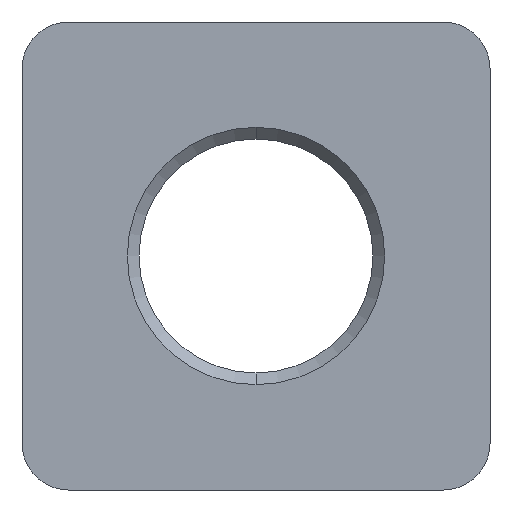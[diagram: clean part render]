
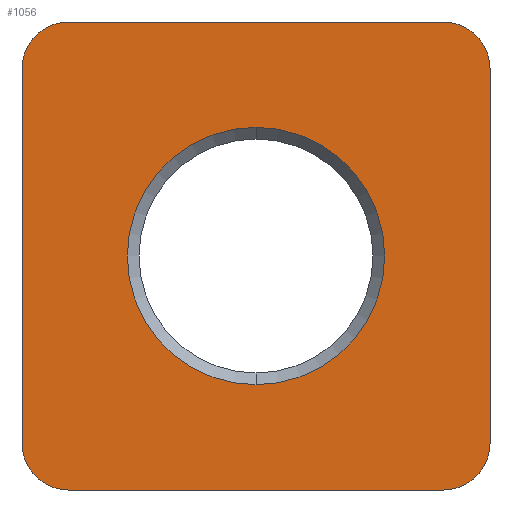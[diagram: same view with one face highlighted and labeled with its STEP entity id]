
A CAD part, front view. The second image highlights one B-rep face of the part: STEP entity #1056.
In plain terms, the highlighted planar face has unit normal (0, -1, 0).
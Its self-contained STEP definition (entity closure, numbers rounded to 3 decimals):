
#45 = EDGE_CURVE ( 'NONE', #1038, #50, #368, .T. ) ;
#50 = VERTEX_POINT ( 'NONE', #359 ) ;
#61 = EDGE_CURVE ( 'NONE', #50, #66, #402, .T. ) ;
#66 = VERTEX_POINT ( 'NONE', #392 ) ;
#69 = VERTEX_POINT ( 'NONE', #386 ) ;
#83 = EDGE_CURVE ( 'NONE', #1103, #1038, #417, .T. ) ;
#86 = ORIENTED_EDGE ( 'NONE', *, *, #83, .F. ) ;
#87 = ORIENTED_EDGE ( 'NONE', *, *, #1086, .F. ) ;
#89 = ORIENTED_EDGE ( 'NONE', *, *, #45, .F. ) ;
#90 = ORIENTED_EDGE ( 'NONE', *, *, #61, .F. ) ;
#91 = ORIENTED_EDGE ( 'NONE', *, *, #1047, .F. ) ;
#92 = ORIENTED_EDGE ( 'NONE', *, *, #1154, .F. ) ;
#103 = EDGE_LOOP ( 'NONE', ( #1057, #1054 ) ) ;
#140 = VERTEX_POINT ( 'NONE', #513 ) ;
#142 = EDGE_CURVE ( 'NONE', #140, #145, #511, .T. ) ;
#145 = VERTEX_POINT ( 'NONE', #568 ) ;
#359 = CARTESIAN_POINT ( 'NONE',  ( 16., 0., 20. ) ) ;
#365 = DIRECTION ( 'NONE',  ( 1., 0., 0. ) ) ;
#366 = VECTOR ( 'NONE', #365, 1000. ) ;
#367 = CARTESIAN_POINT ( 'NONE',  ( -16., 0., 20. ) ) ;
#368 = LINE ( 'NONE', #367, #366 ) ;
#386 = CARTESIAN_POINT ( 'NONE',  ( -20., 0., -16. ) ) ;
#392 = CARTESIAN_POINT ( 'NONE',  ( 20., 0., 16. ) ) ;
#399 = DIRECTION ( 'NONE',  ( 0., 0., 1. ) ) ;
#400 = DIRECTION ( 'NONE',  ( 0., 1., 0. ) ) ;
#401 = AXIS2_PLACEMENT_3D ( 'NONE', #408, #400, #399 ) ;
#402 = CIRCLE ( 'NONE', #401, 4. ) ;
#408 = CARTESIAN_POINT ( 'NONE',  ( 16., 0., 16. ) ) ;
#413 = DIRECTION ( 'NONE',  ( 0., 0., -1. ) ) ;
#414 = DIRECTION ( 'NONE',  ( 0., 1., 0. ) ) ;
#415 = CARTESIAN_POINT ( 'NONE',  ( -16., 0., 16. ) ) ;
#416 = AXIS2_PLACEMENT_3D ( 'NONE', #415, #414, #413 ) ;
#417 = CIRCLE ( 'NONE', #416, 4. ) ;
#505 = DIRECTION ( 'NONE',  ( 0., 0., 1. ) ) ;
#506 = DIRECTION ( 'NONE',  ( 0., 1., 0. ) ) ;
#507 = DIRECTION ( 'NONE',  ( 0., 0., 1. ) ) ;
#508 = DIRECTION ( 'NONE',  ( 0., 1., 0. ) ) ;
#509 = CARTESIAN_POINT ( 'NONE',  ( 0., 0., 0. ) ) ;
#510 = AXIS2_PLACEMENT_3D ( 'NONE', #509, #508, #507 ) ;
#511 = CIRCLE ( 'NONE', #510, 11. ) ;
#512 = CARTESIAN_POINT ( 'NONE',  ( 0., 0., 0. ) ) ;
#513 = CARTESIAN_POINT ( 'NONE',  ( 0., 0., -11. ) ) ;
#568 = CARTESIAN_POINT ( 'NONE',  ( 0., 0., 11. ) ) ;
#759 = AXIS2_PLACEMENT_3D ( 'NONE', #512, #506, #505 ) ;
#760 = CIRCLE ( 'NONE', #759, 11. ) ;
#767 = DIRECTION ( 'NONE',  ( 0., 0., -1. ) ) ;
#768 = DIRECTION ( 'NONE',  ( 0., 1., 0. ) ) ;
#769 = AXIS2_PLACEMENT_3D ( 'NONE', #774, #768, #767 ) ;
#770 = CIRCLE ( 'NONE', #769, 4. ) ;
#774 = CARTESIAN_POINT ( 'NONE',  ( 16., 0., -16. ) ) ;
#784 = CARTESIAN_POINT ( 'NONE',  ( -16., 0., 20. ) ) ;
#812 = DIRECTION ( 'NONE',  ( 0., 0., 1. ) ) ;
#813 = DIRECTION ( 'NONE',  ( 0., 1., 0. ) ) ;
#815 = CARTESIAN_POINT ( 'NONE',  ( -16., 0., -16. ) ) ;
#816 = AXIS2_PLACEMENT_3D ( 'NONE', #815, #813, #812 ) ;
#817 = PLANE ( 'NONE',  #816 ) ;
#818 = FACE_OUTER_BOUND ( 'NONE', #1053, .T. ) ;
#819 = FACE_BOUND ( 'NONE', #103, .T. ) ;
#831 = DIRECTION ( 'NONE',  ( 0., 0., 1. ) ) ;
#832 = VECTOR ( 'NONE', #831, 1000. ) ;
#833 = CARTESIAN_POINT ( 'NONE',  ( -20., 0., 16. ) ) ;
#834 = LINE ( 'NONE', #833, #832 ) ;
#858 = CIRCLE ( 'NONE', #913, 4. ) ;
#862 = CARTESIAN_POINT ( 'NONE',  ( -16., 0., -20. ) ) ;
#872 = CARTESIAN_POINT ( 'NONE',  ( -20., 0., 16. ) ) ;
#910 = DIRECTION ( 'NONE',  ( 0., 0., 1. ) ) ;
#911 = DIRECTION ( 'NONE',  ( 0., 1., 0. ) ) ;
#912 = CARTESIAN_POINT ( 'NONE',  ( -16., 0., -16. ) ) ;
#913 = AXIS2_PLACEMENT_3D ( 'NONE', #912, #911, #910 ) ;
#917 = DIRECTION ( 'NONE',  ( -1., 0., 0. ) ) ;
#918 = VECTOR ( 'NONE', #917, 1000. ) ;
#919 = CARTESIAN_POINT ( 'NONE',  ( -16., 0., -20. ) ) ;
#920 = LINE ( 'NONE', #919, #918 ) ;
#921 = DIRECTION ( 'NONE',  ( 0., 0., -1. ) ) ;
#922 = VECTOR ( 'NONE', #921, 1000. ) ;
#923 = CARTESIAN_POINT ( 'NONE',  ( 20., 0., 16. ) ) ;
#924 = LINE ( 'NONE', #923, #922 ) ;
#960 = CARTESIAN_POINT ( 'NONE',  ( 16., 0., -20. ) ) ;
#961 = CARTESIAN_POINT ( 'NONE',  ( 20., 0., -16. ) ) ;
#1038 = VERTEX_POINT ( 'NONE', #784 ) ;
#1047 = EDGE_CURVE ( 'NONE', #1165, #1166, #770, .T. ) ;
#1051 = ORIENTED_EDGE ( 'NONE', *, *, #1157, .F. ) ;
#1052 = ORIENTED_EDGE ( 'NONE', *, *, #1114, .F. ) ;
#1053 = EDGE_LOOP ( 'NONE', ( #1052, #1051, #91, #92, #90, #89, #86, #87 ) ) ;
#1054 = ORIENTED_EDGE ( 'NONE', *, *, #1055, .T. ) ;
#1055 = EDGE_CURVE ( 'NONE', #145, #140, #760, .T. ) ;
#1056 = ADVANCED_FACE ( 'NONE', ( #819, #818 ), #817, .F. ) ;
#1057 = ORIENTED_EDGE ( 'NONE', *, *, #142, .T. ) ;
#1086 = EDGE_CURVE ( 'NONE', #69, #1103, #834, .T. ) ;
#1103 = VERTEX_POINT ( 'NONE', #872 ) ;
#1107 = VERTEX_POINT ( 'NONE', #862 ) ;
#1114 = EDGE_CURVE ( 'NONE', #1107, #69, #858, .T. ) ;
#1154 = EDGE_CURVE ( 'NONE', #66, #1165, #924, .T. ) ;
#1157 = EDGE_CURVE ( 'NONE', #1166, #1107, #920, .T. ) ;
#1165 = VERTEX_POINT ( 'NONE', #961 ) ;
#1166 = VERTEX_POINT ( 'NONE', #960 ) ;
